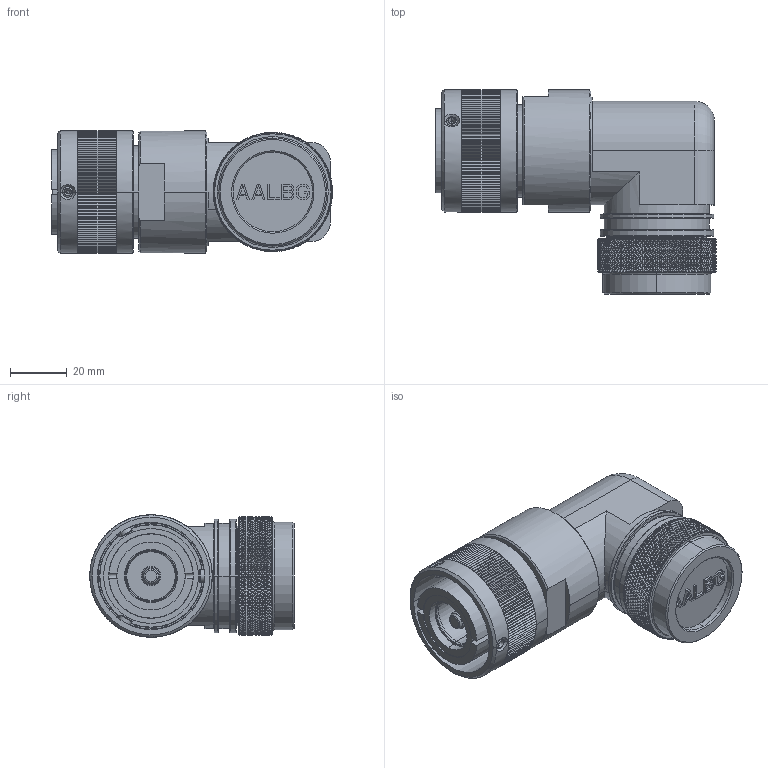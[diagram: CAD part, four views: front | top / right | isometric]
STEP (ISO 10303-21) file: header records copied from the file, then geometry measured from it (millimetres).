
FILE_DESCRIPTION((''),'2;1');
FILE_NAME('GCE3108E22M95P-B-T14_SW0001','2023-06-01T15:49:27',('paultorloting'),('NET AG system integration'),'CREO PARAMETRIC BY PTC INC, 2021404','CREO PARAMETRIC BY PTC INC, 2021404','');
FILE_SCHEMA(('AUTOMOTIVE_DESIGN { 1 0 10303 214 1 1 1 1 }'));
Length unit declared in the file: millimetre
Products named in the file (1): GCE3108E22M95P-B-T14_SW0001
Bounding box: 98.9 x 71.95 x 43.1 mm (x, y, z)
Volume: 147014.2 mm3; surface area: 35070.2 mm2
Topology: 1 solids, 3 shells, 7291 faces, 15294 edges, 8180 vertices
Faces by surface type: bspline 3903, plane 2277, cylinder 993, cone 67, torus 51
Entity records: 266513 total; most frequent: CARTESIAN_POINT 141947, ORIENTED_EDGE 30576, EDGE_CURVE 15288, DIRECTION 11968, B_SPLINE_CURVE_WITH_KNOTS 10782, VERTEX_POINT 8180, EDGE_LOOP 7474, FACE_OUTER_BOUND 7291
